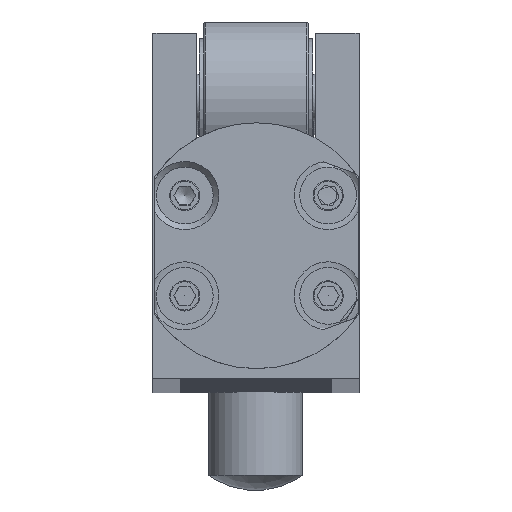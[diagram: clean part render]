
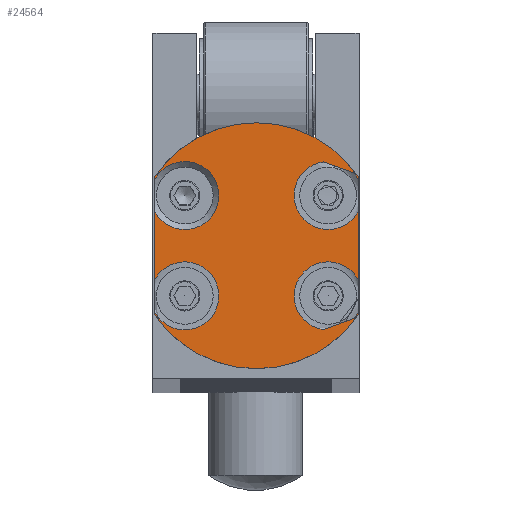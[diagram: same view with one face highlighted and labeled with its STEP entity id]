
A CAD part, top view. The second image highlights one B-rep face of the part: STEP entity #24564.
In plain terms, the highlighted planar face has unit normal (0, 0, 1).
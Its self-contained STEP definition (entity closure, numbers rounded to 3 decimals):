
#1124=PLANE('',#26915);
#1651=LINE('',#41223,#2595);
#1653=LINE('',#41226,#2597);
#1654=LINE('',#41231,#2598);
#1657=LINE('',#41262,#2601);
#1660=LINE('',#41285,#2604);
#1661=LINE('',#41286,#2605);
#1663=LINE('',#41288,#2607);
#1666=LINE('',#41304,#2610);
#2595=VECTOR('',#32334,10.);
#2597=VECTOR('',#32336,10.);
#2598=VECTOR('',#32337,10.);
#2601=VECTOR('',#32354,10.);
#2604=VECTOR('',#32373,10.);
#2605=VECTOR('',#32374,10.);
#2607=VECTOR('',#32376,10.);
#2610=VECTOR('',#32395,10.);
#4138=FACE_OUTER_BOUND('',#5502,.T.);
#5502=EDGE_LOOP('',(#17805,#17806,#17807,#17808,#17809,#17810,#17811,#17812,
#17813,#17814,#17815,#17816,#17817,#17818,#17819,#17820));
#7516=CIRCLE('',#26879,13.);
#7523=CIRCLE('',#26890,13.);
#7529=CIRCLE('',#26899,3.6);
#7533=CIRCLE('',#26906,3.6);
#7534=CIRCLE('',#26907,3.6);
#7538=CIRCLE('',#26914,3.6);
#7539=CIRCLE('',#26916,3.6);
#7540=CIRCLE('',#26917,3.6);
#9927=VERTEX_POINT('',#41177);
#9930=VERTEX_POINT('',#41182);
#9941=VERTEX_POINT('',#41209);
#9942=VERTEX_POINT('',#41211);
#9944=VERTEX_POINT('',#41218);
#9945=VERTEX_POINT('',#41219);
#9946=VERTEX_POINT('',#41225);
#9947=VERTEX_POINT('',#41227);
#9951=VERTEX_POINT('',#41241);
#9953=VERTEX_POINT('',#41246);
#9954=VERTEX_POINT('',#41253);
#9956=VERTEX_POINT('',#41258);
#9960=VERTEX_POINT('',#41276);
#9962=VERTEX_POINT('',#41281);
#9966=VERTEX_POINT('',#41301);
#9967=VERTEX_POINT('',#41303);
#12893=EDGE_CURVE('',#9930,#9927,#7516,.T.);
#12905=EDGE_CURVE('',#9941,#9942,#7523,.T.);
#12910=EDGE_CURVE('',#9930,#9945,#1651,.T.);
#12912=EDGE_CURVE('',#9946,#9942,#1653,.T.);
#12914=EDGE_CURVE('',#9944,#9947,#1654,.T.);
#12920=EDGE_CURVE('',#9953,#9951,#7529,.T.);
#12925=EDGE_CURVE('',#9954,#9956,#1657,.T.);
#12930=EDGE_CURVE('',#9956,#9946,#7533,.T.);
#12932=EDGE_CURVE('',#9947,#9954,#7534,.T.);
#12935=EDGE_CURVE('',#9951,#9962,#1660,.T.);
#12936=EDGE_CURVE('',#9941,#9953,#1661,.T.);
#12938=EDGE_CURVE('',#9960,#9927,#1663,.T.);
#12943=EDGE_CURVE('',#9962,#9960,#7538,.T.);
#12945=EDGE_CURVE('',#9945,#9966,#7539,.T.);
#12946=EDGE_CURVE('',#9966,#9967,#1666,.T.);
#12947=EDGE_CURVE('',#9967,#9944,#7540,.T.);
#17805=ORIENTED_EDGE('',*,*,#12945,.T.);
#17806=ORIENTED_EDGE('',*,*,#12946,.T.);
#17807=ORIENTED_EDGE('',*,*,#12947,.T.);
#17808=ORIENTED_EDGE('',*,*,#12914,.T.);
#17809=ORIENTED_EDGE('',*,*,#12932,.T.);
#17810=ORIENTED_EDGE('',*,*,#12925,.T.);
#17811=ORIENTED_EDGE('',*,*,#12930,.T.);
#17812=ORIENTED_EDGE('',*,*,#12912,.T.);
#17813=ORIENTED_EDGE('',*,*,#12905,.F.);
#17814=ORIENTED_EDGE('',*,*,#12936,.T.);
#17815=ORIENTED_EDGE('',*,*,#12920,.T.);
#17816=ORIENTED_EDGE('',*,*,#12935,.T.);
#17817=ORIENTED_EDGE('',*,*,#12943,.T.);
#17818=ORIENTED_EDGE('',*,*,#12938,.T.);
#17819=ORIENTED_EDGE('',*,*,#12893,.F.);
#17820=ORIENTED_EDGE('',*,*,#12910,.T.);
#24564=ADVANCED_FACE('',(#4138),#1124,.T.);
#26879=AXIS2_PLACEMENT_3D('',#41184,#32298,#32299);
#26890=AXIS2_PLACEMENT_3D('',#41212,#32325,#32326);
#26899=AXIS2_PLACEMENT_3D('',#41247,#32349,#32350);
#26906=AXIS2_PLACEMENT_3D('',#41272,#32366,#32367);
#26907=AXIS2_PLACEMENT_3D('',#41274,#32369,#32370);
#26914=AXIS2_PLACEMENT_3D('',#41298,#32388,#32389);
#26915=AXIS2_PLACEMENT_3D('',#41300,#32391,#32392);
#26916=AXIS2_PLACEMENT_3D('',#41302,#32393,#32394);
#26917=AXIS2_PLACEMENT_3D('',#41305,#32396,#32397);
#32298=DIRECTION('center_axis',(0.,0.,
-1.));
#32299=DIRECTION('ref_axis',(0.,1.,0.));
#32325=DIRECTION('center_axis',(0.,0.,
-1.));
#32326=DIRECTION('ref_axis',(0.,1.,0.));
#32334=DIRECTION('',(0.,1.,0.));
#32336=DIRECTION('',(0.,1.,0.));
#32337=DIRECTION('',(0.,1.,0.));
#32349=DIRECTION('center_axis',(0.,0.,
-1.));
#32350=DIRECTION('ref_axis',(1.,0.,0.));
#32354=DIRECTION('',(0.94,-0.342,0.));
#32366=DIRECTION('center_axis',(0.,0.,
-1.));
#32367=DIRECTION('ref_axis',(-0.342,-0.94,0.));
#32369=DIRECTION('center_axis',(0.,0.,
-1.));
#32370=DIRECTION('ref_axis',(-0.342,-0.94,0.));
#32373=DIRECTION('',(0.,-1.,0.));
#32374=DIRECTION('',(0.,-1.,0.));
#32376=DIRECTION('',(0.,-1.,0.));
#32388=DIRECTION('center_axis',(0.,0.,
-1.));
#32389=DIRECTION('ref_axis',(1.,0.,0.));
#32391=DIRECTION('center_axis',(0.,0.,
1.));
#32392=DIRECTION('ref_axis',(1.,0.,0.));
#32393=DIRECTION('center_axis',(0.,0.,
-1.));
#32394=DIRECTION('ref_axis',(-0.342,0.94,0.));
#32395=DIRECTION('',(-0.94,-0.342,0.));
#32396=DIRECTION('center_axis',(0.,0.,
-1.));
#32397=DIRECTION('ref_axis',(-0.342,0.94,0.));
#41177=CARTESIAN_POINT('',(-10.7,-11.56,446.));
#41182=CARTESIAN_POINT('',(10.8,-11.56,446.));
#41184=CARTESIAN_POINT('Origin',(0.05,-4.25,446.));
#41209=CARTESIAN_POINT('',(-10.7,3.06,446.));
#41211=CARTESIAN_POINT('',(10.8,3.06,446.));
#41212=CARTESIAN_POINT('Origin',(0.05,-4.25,446.));
#41218=CARTESIAN_POINT('',(10.8,-7.855,446.));
#41219=CARTESIAN_POINT('',(10.8,-11.256,446.));
#41223=CARTESIAN_POINT('',(10.8,-4.655,446.));
#41225=CARTESIAN_POINT('',(10.8,2.756,446.));
#41226=CARTESIAN_POINT('',(10.8,-4.655,446.));
#41227=CARTESIAN_POINT('',(10.8,-0.645,446.));
#41231=CARTESIAN_POINT('',(10.8,-4.655,446.));
#41241=CARTESIAN_POINT('',(-10.7,-0.645,446.));
#41246=CARTESIAN_POINT('',(-10.7,2.756,446.));
#41247=CARTESIAN_POINT('Origin',(-7.527,1.056,446.));
#41253=CARTESIAN_POINT('',(7.114,4.619,446.));
#41258=CARTESIAN_POINT('',(10.311,3.455,446.));
#41262=CARTESIAN_POINT('',(6.117,4.982,446.));
#41272=CARTESIAN_POINT('Origin',(7.627,1.056,446.));
#41274=CARTESIAN_POINT('Origin',(7.627,1.056,446.));
#41276=CARTESIAN_POINT('',(-10.7,-11.256,446.));
#41281=CARTESIAN_POINT('',(-10.7,-7.855,446.));
#41285=CARTESIAN_POINT('',(-10.7,2.655,446.));
#41286=CARTESIAN_POINT('',(-10.7,2.655,446.));
#41288=CARTESIAN_POINT('',(-10.7,2.655,446.));
#41298=CARTESIAN_POINT('Origin',(-7.527,-9.556,446.));
#41300=CARTESIAN_POINT('Origin',(0.05,2.25,446.));
#41301=CARTESIAN_POINT('',(10.311,-11.955,446.));
#41302=CARTESIAN_POINT('Origin',(7.627,-9.556,446.));
#41303=CARTESIAN_POINT('',(7.114,-13.119,446.));
#41304=CARTESIAN_POINT('',(8.206,-12.721,446.));
#41305=CARTESIAN_POINT('Origin',(7.627,-9.556,446.));
